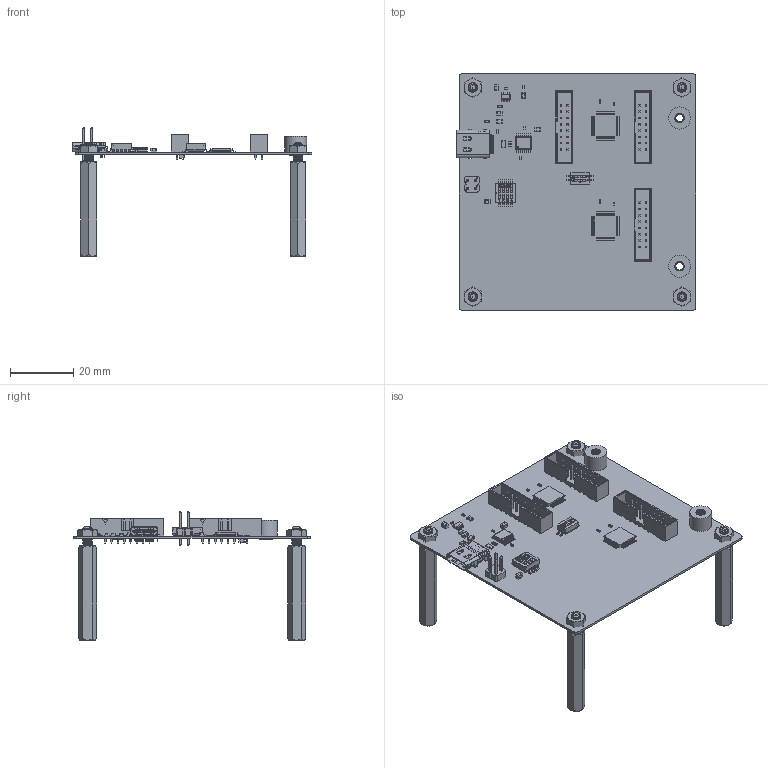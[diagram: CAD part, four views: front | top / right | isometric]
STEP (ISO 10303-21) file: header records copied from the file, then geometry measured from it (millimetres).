
FILE_DESCRIPTION(('Open CASCADE Model'),'2;1');
FILE_NAME('Open CASCADE Shape Model','2021-04-07T14:22:23',('Author'),( 'Open CASCADE'),'Open CASCADE STEP processor 6.8','Open CASCADE 6.8' ,'Unknown');
FILE_SCHEMA(('AUTOMOTIVE_DESIGN { 1 0 10303 214 1 1 1 1 }'));
Length unit declared in the file: millimetre
Products named in the file (203): PCB; Board; Open CASCADE STEP translator 6.8 2.1.1; SW2; 4_Pos_1.27_Pitch_Dip_Switch; Terminal012; Terminal013; Actuator006; Contact006; Lead_Terminal_04; Housing_04; R4; 5993354688; Mid_Body; Terminal; Open_CASCADE_STEP_translator_6.8_5.2.1; Mark; R8; 5993354448; R6; H1; Hex_Spacer_MF_M3_L30mm; R2; R1; 5993354608; IC3; 6749258800; Open_CASCADE_STEP_translator_6.8_13.1; Body; Open_CASCADE_STEP_translator_6.8_13.2.1; Leader; IC2; 6749245680; Open_CASCADE_STEP_translator_6.8_20.1; Open_CASCADE_STEP_translator_6.8_20.2.1; Pin_Shape; Open_CASCADE_STEP_translator_6.8_20.3.1; IC1; 7358441728; Open_CASCADE_STEP_translator_6.8_10.1.1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
Assembly tree (336 placements, depth 5):
  PCB
    Board
      Open CASCADE STEP translator 6.8 2.1.1
    SW2
      4_Pos_1.27_Pitch_Dip_Switch
        Terminal012  x4
        Terminal013  x4
        Actuator006  x4
        Contact006  x4
        Lead_Terminal_04
        Housing_04
      4_Pos_1.27_Pitch_Dip_Switch
      4_Pos_1.27_Pitch_Dip_Switch
      4_Pos_1.27_Pitch_Dip_Switch
      4_Pos_1.27_Pitch_Dip_Switch
      4_Pos_1.27_Pitch_Dip_Switch
      4_Pos_1.27_Pitch_Dip_Switch
      4_Pos_1.27_Pitch_Dip_Switch
      4_Pos_1.27_Pitch_Dip_Switch
      4_Pos_1.27_Pitch_Dip_Switch
      4_Pos_1.27_Pitch_Dip_Switch
      4_Pos_1.27_Pitch_Dip_Switch
      4_Pos_1.27_Pitch_Dip_Switch
      4_Pos_1.27_Pitch_Dip_Switch
      4_Pos_1.27_Pitch_Dip_Switch
      4_Pos_1.27_Pitch_Dip_Switch
      4_Pos_1.27_Pitch_Dip_Switch
      4_Pos_1.27_Pitch_Dip_Switch
      4_Pos_1.27_Pitch_Dip_Switch
      4_Pos_1.27_Pitch_Dip_Switch
    R4
      5993354688
        Mid_Body
        Terminal  x2
          Open_CASCADE_STEP_translator_6.8_5.2.1
        Mark
    R8
      5993354448
        Mid_Body
        Terminal  x2
          Open_CASCADE_STEP_translator_6.8_5.2.1
        Mark
    R6
      5993354448
        Mid_Body
        Terminal  x2
          Open_CASCADE_STEP_translator_6.8_5.2.1
        Mark
    H1
      Hex_Spacer_MF_M3_L30mm
    R2
      5993354688
        Mid_Body
        Terminal  x2
          Open_CASCADE_STEP_translator_6.8_5.2.1
        Mark
    R1
      5993354608
        Mid_Body
        Terminal  x2
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Bounding box: 75.95 x 75 x 40.74 mm (x, y, z)
Volume: 5983 mm3; surface area: 21974.5 mm2
Topology: 329 solids, 621 shells, 9452 faces, 22864 edges, 14220 vertices
Faces by surface type: plane 7352, cylinder 1552, bspline 228, cone 148, sphere 122, extrusion 26, torus 24
Full cylindrical faces by diameter (mm): 0.144 x1, 0.4 x20, 0.5 x11, 0.8 x48, 1.2 x4, 3.1 x4, 4 x2, 4.2 x2, 7 x2
Entity records: 185874 total; most frequent: CARTESIAN_POINT 60026, ORIENTED_EDGE 22734, DIRECTION 21922, EDGE_CURVE 11775, VECTOR 9324, LINE 9298, VERTEX_POINT 7809, AXIS2_PLACEMENT_3D 6299
